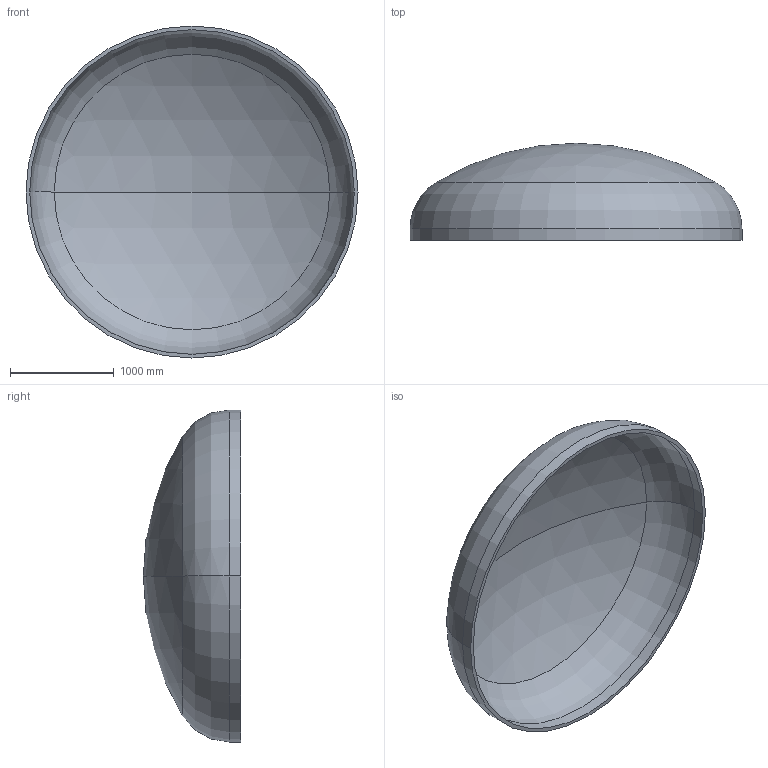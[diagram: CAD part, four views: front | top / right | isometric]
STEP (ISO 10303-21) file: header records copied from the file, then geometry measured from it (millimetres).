
FILE_DESCRIPTION (( 'STEP AP203' ), '1' );
FILE_NAME ('DIN 28013 Korbbogenform_-_Boden DIN 28013 - 3200 x 110 - I - s=36.step', '2016-07-01T18:33:55', ( '' ), ( '' ), 'SwSTEP 2.0', 'SolidWorks 2013', '' );
FILE_SCHEMA (( 'CONFIG_CONTROL_DESIGN' ));
Length unit declared in the file: millimetre
Products named in the file (1): DIN 28013 Korbbogenform_-_Boden DIN 28013 - 3200 x 110 - I - s=36
Bounding box: 3200 x 936.42 x 3200 mm (x, y, z)
Volume: 433993973.4 mm3; surface area: 24471321.8 mm2
Topology: 1 solids, 1 shells, 13 faces, 24 edges, 14 vertices
Faces by surface type: torus 4, cylinder 4, sphere 4, plane 1
Entity records: 407 total; most frequent: DIRECTION 72, CARTESIAN_POINT 52, ORIENTED_EDGE 48, AXIS2_PLACEMENT_3D 34, EDGE_CURVE 24, CIRCLE 20, EDGE_LOOP 14, VERTEX_POINT 14
